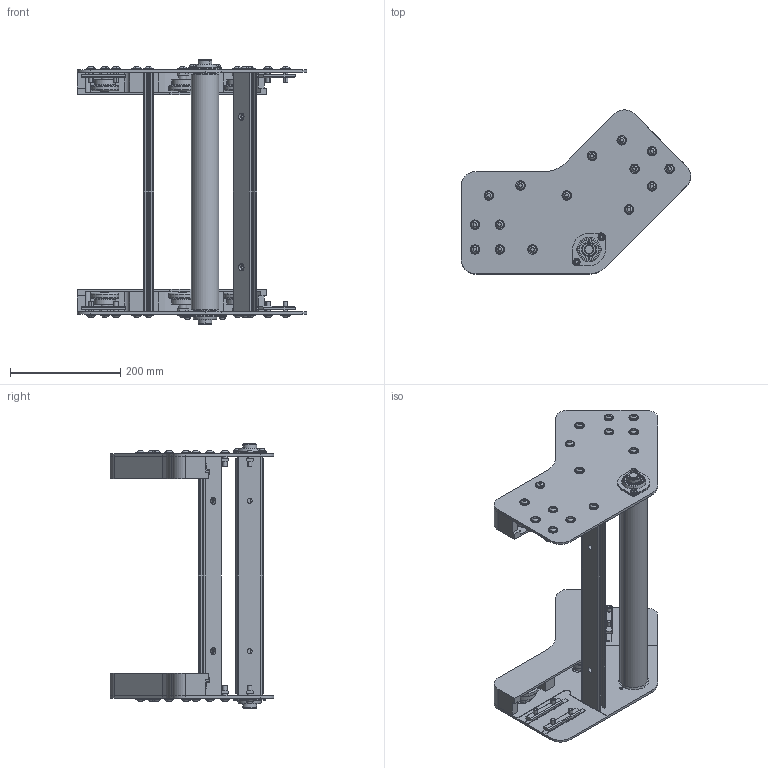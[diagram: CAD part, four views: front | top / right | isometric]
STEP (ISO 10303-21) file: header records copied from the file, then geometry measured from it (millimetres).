
FILE_DESCRIPTION (( 'STEP AP203' ), '1' );
FILE_NAME ('084.095.KA.45.400.STEP', '2019-07-30T08:35:27', ( '' ), ( '' ), 'SwSTEP 2.0', 'SolidWorks 2018', '' );
FILE_SCHEMA (( 'CONFIG_CONTROL_DESIGN' ));
Length unit declared in the file: millimetre
Products named in the file (17): 084.821.103; CUSCINETTI A SFERE_6002-2Z; VITI TESTA BOMBATA ISO 730 INOX_M8x25 ISO 7380 INOX; 084.095.KA.45.400; 084.821.125_Default<A macchina>; 084.302.016; circlip for shafts normal_din_PreviewCfg; SBPFL 203; RONDELLE UNI 6592_8.4x17 UNI 6592; 084.101.004_KA.45.400_Default<A macchina>; VITI TESTA BOMBATA ISO 730 INOX_M6x10 ISO 7380 INOX; 084.811.004; 084.821.123; 084.821.102; 084.821.122; RONDELLE UNI 6592_6.4x12.5 UNI 6592; 084.821.105
Assembly tree (129 placements, depth 2):
  084.095.KA.45.400
    084.821.125_Default<A macchina>
    084.101.004_KA.45.400_Default<A macchina>  x2
    084.821.122  x2
    084.821.123  x2
    084.821.103  x6
    084.821.105  x6
    084.821.102  x6
    084.302.016  x8
    084.811.004  x2
    CUSCINETTI A SFERE_6002-2Z  x12
    SBPFL 203  x2
    circlip for shafts normal_din_PreviewCfg  x12
    VITI TESTA BOMBATA ISO 730 INOX_M8x25 ISO 7380 INOX  x30
    RONDELLE UNI 6592_8.4x17 UNI 6592  x30
    VITI TESTA BOMBATA ISO 730 INOX_M6x10 ISO 7380 INOX  x4
    RONDELLE UNI 6592_6.4x12.5 UNI 6592  x4
Bounding box: 416.33 x 297.14 x 481 mm (x, y, z)
Volume: 2437343 mm3; surface area: 1122679 mm2
Topology: 133 solids, 133 shells, 2491 faces, 5873 edges, 3800 vertices
Faces by surface type: plane 1056, cylinder 1011, cone 208, torus 196, sphere 20
Entity records: 22691 total; most frequent: DIRECTION 3356, CARTESIAN_POINT 3298, ORIENTED_EDGE 2832, EDGE_CURVE 1416, AXIS2_PLACEMENT_3D 1282, VERTEX_POINT 928, VECTOR 792, LINE 792
